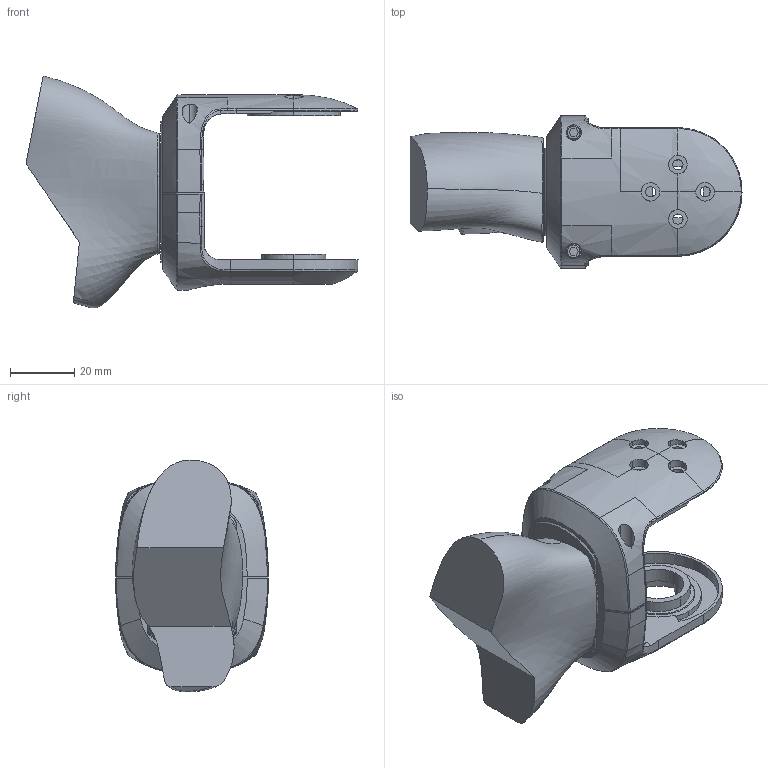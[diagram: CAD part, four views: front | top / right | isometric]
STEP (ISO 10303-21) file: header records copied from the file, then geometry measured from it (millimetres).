
FILE_DESCRIPTION (( 'STEP AP203' ), '1' );
FILE_NAME ('G1进阶版末端装配图（5010手腕）.STEP', '2026-01-05T08:37:20', ( 'Opium' ), ( 'YC.TEC' ), 'SwSTEP 2.0', 'SolidWorks 2023', '' );
FILE_SCHEMA (( 'CONFIG_CONTROL_DESIGN' ));
Length unit declared in the file: millimetre
Products named in the file (5): G1进阶版末端抱箍一（5010手腕）_默认; G1进阶版末端装配图（5010手腕）; G1进阶版末端执行器(示意)（5010手腕）_默认; M3螺钉长度10mm（窄头螺钉，头径4.5mm）_默认; G1进阶版末端抱箍二（5010手腕）_默认
Assembly tree (5 placements, depth 2):
  G1进阶版末端装配图（5010手腕）
    G1进阶版末端抱箍一（5010手腕）_默认
    G1进阶版末端抱箍二（5010手腕）_默认
    G1进阶版末端执行器(示意)（5010手腕）_默认
    M3螺钉长度10mm（窄头螺钉，头径4.5mm）_默认  x2
Bounding box: 103.6 x 47.73 x 72.38 mm (x, y, z)
Volume: 86917.8 mm3; surface area: 28198.4 mm2
Topology: 5 solids, 5 shells, 538 faces, 1381 edges, 856 vertices
Faces by surface type: bspline 182, cylinder 149, plane 125, cone 42, torus 40
Entity records: 49282 total; most frequent: CARTESIAN_POINT 37619, ORIENTED_EDGE 2650, DIRECTION 1831, EDGE_CURVE 1325, VERTEX_POINT 830, AXIS2_PLACEMENT_3D 745, B_SPLINE_CURVE_WITH_KNOTS 576, EDGE_LOOP 555
